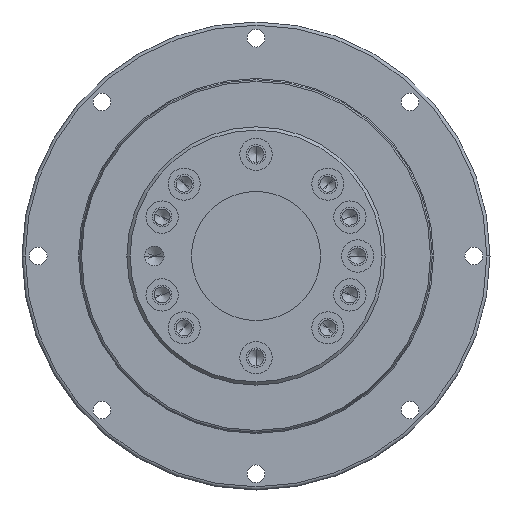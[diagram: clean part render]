
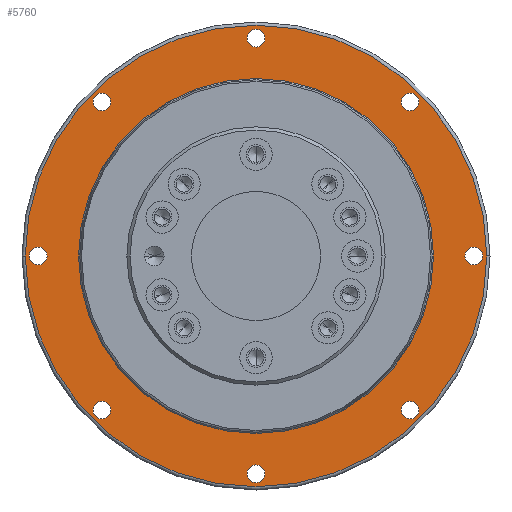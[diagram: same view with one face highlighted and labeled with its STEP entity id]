
A CAD part, left-side view. The second image highlights one B-rep face of the part: STEP entity #5760.
In plain terms, the highlighted planar face has unit normal (-1, 0, 0) as drawn and (1, 0, 0) by its records, which use the part's own axes.
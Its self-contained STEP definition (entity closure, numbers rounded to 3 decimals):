
#3909=CARTESIAN_POINT('',(0.,47.73,-47.73));
#3910=DIRECTION('',(-1.,0.,0.));
#3911=DIRECTION('',(0.,-1.,0.));
#3912=AXIS2_PLACEMENT_3D('',#3909,#3910,#3911);
#3914=CARTESIAN_POINT('',(0.,47.73,-47.73));
#3915=DIRECTION('',(-1.,0.,0.));
#3916=DIRECTION('',(0.,1.,0.));
#3917=AXIS2_PLACEMENT_3D('',#3914,#3915,#3916);
#3919=CARTESIAN_POINT('',(0.,0.,-67.5));
#3920=DIRECTION('',(-1.,0.,0.));
#3921=DIRECTION('',(0.,-1.,0.));
#3922=AXIS2_PLACEMENT_3D('',#3919,#3920,#3921);
#3924=CARTESIAN_POINT('',(0.,0.,-67.5));
#3925=DIRECTION('',(-1.,0.,0.));
#3926=DIRECTION('',(0.,1.,0.));
#3927=AXIS2_PLACEMENT_3D('',#3924,#3925,#3926);
#3929=CARTESIAN_POINT('',(0.,-47.73,-47.73));
#3930=DIRECTION('',(-1.,0.,0.));
#3931=DIRECTION('',(0.,-1.,0.));
#3932=AXIS2_PLACEMENT_3D('',#3929,#3930,#3931);
#3934=CARTESIAN_POINT('',(0.,-47.73,-47.73));
#3935=DIRECTION('',(-1.,0.,0.));
#3936=DIRECTION('',(0.,1.,0.));
#3937=AXIS2_PLACEMENT_3D('',#3934,#3935,#3936);
#3939=CARTESIAN_POINT('',(0.,-67.5,0.));
#3940=DIRECTION('',(-1.,0.,0.));
#3941=DIRECTION('',(0.,-1.,0.));
#3942=AXIS2_PLACEMENT_3D('',#3939,#3940,#3941);
#3944=CARTESIAN_POINT('',(0.,-67.5,0.));
#3945=DIRECTION('',(-1.,0.,0.));
#3946=DIRECTION('',(0.,1.,0.));
#3947=AXIS2_PLACEMENT_3D('',#3944,#3945,#3946);
#3949=CARTESIAN_POINT('',(0.,-47.73,47.73));
#3950=DIRECTION('',(-1.,0.,0.));
#3951=DIRECTION('',(0.,-1.,0.));
#3952=AXIS2_PLACEMENT_3D('',#3949,#3950,#3951);
#3954=CARTESIAN_POINT('',(0.,-47.73,47.73));
#3955=DIRECTION('',(-1.,0.,0.));
#3956=DIRECTION('',(0.,1.,0.));
#3957=AXIS2_PLACEMENT_3D('',#3954,#3955,#3956);
#3959=CARTESIAN_POINT('',(0.,0.,67.5));
#3960=DIRECTION('',(-1.,0.,0.));
#3961=DIRECTION('',(0.,-1.,0.));
#3962=AXIS2_PLACEMENT_3D('',#3959,#3960,#3961);
#3964=CARTESIAN_POINT('',(0.,0.,67.5));
#3965=DIRECTION('',(-1.,0.,0.));
#3966=DIRECTION('',(0.,1.,0.));
#3967=AXIS2_PLACEMENT_3D('',#3964,#3965,#3966);
#3969=CARTESIAN_POINT('',(0.,47.73,47.73));
#3970=DIRECTION('',(-1.,0.,0.));
#3971=DIRECTION('',(0.,-1.,0.));
#3972=AXIS2_PLACEMENT_3D('',#3969,#3970,#3971);
#3974=CARTESIAN_POINT('',(0.,47.73,47.73));
#3975=DIRECTION('',(-1.,0.,0.));
#3976=DIRECTION('',(0.,1.,0.));
#3977=AXIS2_PLACEMENT_3D('',#3974,#3975,#3976);
#3979=CARTESIAN_POINT('',(0.,0.,0.));
#3980=DIRECTION('',(1.,0.,0.));
#3981=DIRECTION('',(0.,1.,0.));
#3982=AXIS2_PLACEMENT_3D('',#3979,#3980,#3981);
#3984=CARTESIAN_POINT('',(0.,0.,0.));
#3985=DIRECTION('',(-1.,0.,0.));
#3986=DIRECTION('',(0.,1.,0.));
#3987=AXIS2_PLACEMENT_3D('',#3984,#3985,#3986);
#3989=CARTESIAN_POINT('',(0.,67.5,0.));
#3990=DIRECTION('',(-1.,0.,0.));
#3991=DIRECTION('',(0.,-1.,0.));
#3992=AXIS2_PLACEMENT_3D('',#3989,#3990,#3991);
#3994=CARTESIAN_POINT('',(0.,67.5,0.));
#3995=DIRECTION('',(-1.,0.,0.));
#3996=DIRECTION('',(0.,1.,0.));
#3997=AXIS2_PLACEMENT_3D('',#3994,#3995,#3996);
#4366=CARTESIAN_POINT('',(0.,0.,0.));
#4367=DIRECTION('',(-1.,0.,0.));
#4368=DIRECTION('',(0.,-1.,0.));
#4369=AXIS2_PLACEMENT_3D('',#4366,#4367,#4368);
#4381=CARTESIAN_POINT('',(0.,0.,0.));
#4382=DIRECTION('',(-1.,0.,0.));
#4383=DIRECTION('',(0.,1.,0.));
#4384=AXIS2_PLACEMENT_3D('',#4381,#4382,#4383);
#5195=CARTESIAN_POINT('',(0.,55.,0.));
#5196=CARTESIAN_POINT('',(0.,-55.,0.));
#5197=VERTEX_POINT('',#5195);
#5198=VERTEX_POINT('',#5196);
#5203=CARTESIAN_POINT('',(0.,64.75,0.));
#5204=CARTESIAN_POINT('',(0.,70.25,0.));
#5205=VERTEX_POINT('',#5203);
#5206=VERTEX_POINT('',#5204);
#5211=CARTESIAN_POINT('',(0.,44.98,47.73));
#5212=CARTESIAN_POINT('',(0.,50.48,47.73));
#5213=VERTEX_POINT('',#5211);
#5214=VERTEX_POINT('',#5212);
#5219=CARTESIAN_POINT('',(0.,-2.75,67.5));
#5220=CARTESIAN_POINT('',(0.,2.75,67.5));
#5221=VERTEX_POINT('',#5219);
#5222=VERTEX_POINT('',#5220);
#5227=CARTESIAN_POINT('',(0.,-50.48,47.73));
#5228=CARTESIAN_POINT('',(0.,-44.98,47.73));
#5229=VERTEX_POINT('',#5227);
#5230=VERTEX_POINT('',#5228);
#5235=CARTESIAN_POINT('',(0.,-70.25,0.));
#5236=CARTESIAN_POINT('',(0.,-64.75,0.));
#5237=VERTEX_POINT('',#5235);
#5238=VERTEX_POINT('',#5236);
#5243=CARTESIAN_POINT('',(0.,-50.48,-47.73));
#5244=CARTESIAN_POINT('',(0.,-44.98,-47.73));
#5245=VERTEX_POINT('',#5243);
#5246=VERTEX_POINT('',#5244);
#5251=CARTESIAN_POINT('',(0.,-2.75,-67.5));
#5252=CARTESIAN_POINT('',(0.,2.75,-67.5));
#5253=VERTEX_POINT('',#5251);
#5254=VERTEX_POINT('',#5252);
#5259=CARTESIAN_POINT('',(0.,44.98,-47.73));
#5260=CARTESIAN_POINT('',(0.,50.48,-47.73));
#5261=VERTEX_POINT('',#5259);
#5262=VERTEX_POINT('',#5260);
#5287=CARTESIAN_POINT('',(0.,-71.5,0.));
#5288=CARTESIAN_POINT('',(0.,71.5,0.));
#5289=VERTEX_POINT('',#5287);
#5290=VERTEX_POINT('',#5288);
#5697=CARTESIAN_POINT('',(0.,0.,0.));
#5698=DIRECTION('',(1.,0.,0.));
#5699=DIRECTION('',(0.,-1.,0.));
#5700=AXIS2_PLACEMENT_3D('',#5697,#5698,#5699);
#5701=PLANE('',#5700);
#5703=ORIENTED_EDGE('',*,*,#5702,.T.);
#5705=ORIENTED_EDGE('',*,*,#5704,.T.);
#5706=EDGE_LOOP('',(#5703,#5705));
#5707=FACE_OUTER_BOUND('',#5706,.F.);
#5709=ORIENTED_EDGE('',*,*,#5708,.F.);
#5711=ORIENTED_EDGE('',*,*,#5710,.F.);
#5712=EDGE_LOOP('',(#5709,#5711));
#5713=FACE_BOUND('',#5712,.F.);
#5715=ORIENTED_EDGE('',*,*,#5714,.F.);
#5717=ORIENTED_EDGE('',*,*,#5716,.F.);
#5718=EDGE_LOOP('',(#5715,#5717));
#5719=FACE_BOUND('',#5718,.F.);
#5721=ORIENTED_EDGE('',*,*,#5720,.F.);
#5723=ORIENTED_EDGE('',*,*,#5722,.F.);
#5724=EDGE_LOOP('',(#5721,#5723));
#5725=FACE_BOUND('',#5724,.F.);
#5727=ORIENTED_EDGE('',*,*,#5726,.F.);
#5729=ORIENTED_EDGE('',*,*,#5728,.F.);
#5730=EDGE_LOOP('',(#5727,#5729));
#5731=FACE_BOUND('',#5730,.F.);
#5733=ORIENTED_EDGE('',*,*,#5732,.F.);
#5735=ORIENTED_EDGE('',*,*,#5734,.F.);
#5736=EDGE_LOOP('',(#5733,#5735));
#5737=FACE_BOUND('',#5736,.F.);
#5739=ORIENTED_EDGE('',*,*,#5738,.F.);
#5741=ORIENTED_EDGE('',*,*,#5740,.F.);
#5742=EDGE_LOOP('',(#5739,#5741));
#5743=FACE_BOUND('',#5742,.F.);
#5744=ORIENTED_EDGE('',*,*,#5679,.T.);
#5745=ORIENTED_EDGE('',*,*,#5664,.F.);
#5746=EDGE_LOOP('',(#5744,#5745));
#5747=FACE_BOUND('',#5746,.F.);
#5749=ORIENTED_EDGE('',*,*,#5748,.F.);
#5751=ORIENTED_EDGE('',*,*,#5750,.F.);
#5752=EDGE_LOOP('',(#5749,#5751));
#5753=FACE_BOUND('',#5752,.F.);
#5755=ORIENTED_EDGE('',*,*,#5754,.F.);
#5757=ORIENTED_EDGE('',*,*,#5756,.F.);
#5758=EDGE_LOOP('',(#5755,#5757));
#5759=FACE_BOUND('',#5758,.F.);
#5760=ADVANCED_FACE('',(#5707,#5713,#5719,#5725,#5731,#5737,#5743,#5747,#5753,
#5759),#5701,.T.);
#3913=CIRCLE('',#3912,2.75);
#3918=CIRCLE('',#3917,2.75);
#3923=CIRCLE('',#3922,2.75);
#3928=CIRCLE('',#3927,2.75);
#3933=CIRCLE('',#3932,2.75);
#3938=CIRCLE('',#3937,2.75);
#3943=CIRCLE('',#3942,2.75);
#3948=CIRCLE('',#3947,2.75);
#3953=CIRCLE('',#3952,2.75);
#3958=CIRCLE('',#3957,2.75);
#3963=CIRCLE('',#3962,2.75);
#3968=CIRCLE('',#3967,2.75);
#3973=CIRCLE('',#3972,2.75);
#3978=CIRCLE('',#3977,2.75);
#3983=CIRCLE('',#3982,55.);
#3988=CIRCLE('',#3987,55.);
#3993=CIRCLE('',#3992,2.75);
#3998=CIRCLE('',#3997,2.75);
#4370=CIRCLE('',#4369,71.5);
#4385=CIRCLE('',#4384,71.5);
#5664=EDGE_CURVE('',#5197,#5198,#3988,.T.);
#5679=EDGE_CURVE('',#5197,#5198,#3983,.T.);
#5702=EDGE_CURVE('',#5289,#5290,#4370,.T.);
#5704=EDGE_CURVE('',#5290,#5289,#4385,.T.);
#5708=EDGE_CURVE('',#5253,#5254,#3923,.T.);
#5710=EDGE_CURVE('',#5254,#5253,#3928,.T.);
#5714=EDGE_CURVE('',#5245,#5246,#3933,.T.);
#5716=EDGE_CURVE('',#5246,#5245,#3938,.T.);
#5720=EDGE_CURVE('',#5237,#5238,#3943,.T.);
#5722=EDGE_CURVE('',#5238,#5237,#3948,.T.);
#5726=EDGE_CURVE('',#5229,#5230,#3953,.T.);
#5728=EDGE_CURVE('',#5230,#5229,#3958,.T.);
#5732=EDGE_CURVE('',#5221,#5222,#3963,.T.);
#5734=EDGE_CURVE('',#5222,#5221,#3968,.T.);
#5738=EDGE_CURVE('',#5213,#5214,#3973,.T.);
#5740=EDGE_CURVE('',#5214,#5213,#3978,.T.);
#5748=EDGE_CURVE('',#5205,#5206,#3993,.T.);
#5750=EDGE_CURVE('',#5206,#5205,#3998,.T.);
#5754=EDGE_CURVE('',#5261,#5262,#3913,.T.);
#5756=EDGE_CURVE('',#5262,#5261,#3918,.T.);
